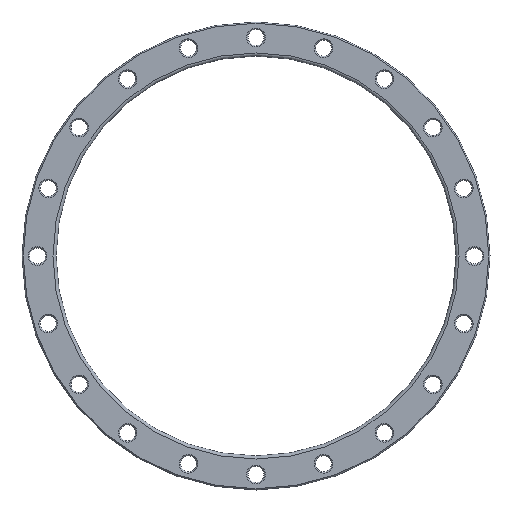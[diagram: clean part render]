
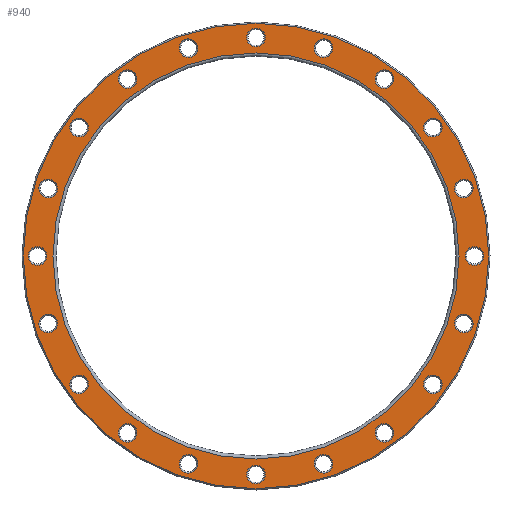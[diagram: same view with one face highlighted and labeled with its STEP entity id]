
A CAD part, front view. The second image highlights one B-rep face of the part: STEP entity #940.
In plain terms, the highlighted planar face has unit normal (0, -1, 0).
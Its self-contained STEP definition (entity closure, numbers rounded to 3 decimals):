
#23=PLANE('',#1104);
#206=ORIENTED_EDGE('',*,*,#325,.T.);
#207=ORIENTED_EDGE('',*,*,#326,.T.);
#208=ORIENTED_EDGE('',*,*,#244,.T.);
#209=ORIENTED_EDGE('',*,*,#248,.T.);
#210=ORIENTED_EDGE('',*,*,#252,.T.);
#211=ORIENTED_EDGE('',*,*,#256,.T.);
#212=ORIENTED_EDGE('',*,*,#260,.T.);
#213=ORIENTED_EDGE('',*,*,#264,.T.);
#214=ORIENTED_EDGE('',*,*,#268,.T.);
#215=ORIENTED_EDGE('',*,*,#272,.T.);
#216=ORIENTED_EDGE('',*,*,#276,.T.);
#217=ORIENTED_EDGE('',*,*,#280,.T.);
#218=ORIENTED_EDGE('',*,*,#284,.T.);
#219=ORIENTED_EDGE('',*,*,#288,.T.);
#220=ORIENTED_EDGE('',*,*,#292,.T.);
#221=ORIENTED_EDGE('',*,*,#296,.T.);
#222=ORIENTED_EDGE('',*,*,#300,.T.);
#223=ORIENTED_EDGE('',*,*,#304,.T.);
#224=ORIENTED_EDGE('',*,*,#308,.T.);
#225=ORIENTED_EDGE('',*,*,#312,.T.);
#226=ORIENTED_EDGE('',*,*,#316,.T.);
#227=ORIENTED_EDGE('',*,*,#327,.T.);
#244=EDGE_CURVE('',#332,#332,#420,.T.);
#248=EDGE_CURVE('',#336,#336,#424,.T.);
#252=EDGE_CURVE('',#340,#340,#428,.T.);
#256=EDGE_CURVE('',#344,#344,#432,.T.);
#260=EDGE_CURVE('',#348,#348,#436,.T.);
#264=EDGE_CURVE('',#352,#352,#440,.T.);
#268=EDGE_CURVE('',#356,#356,#444,.T.);
#272=EDGE_CURVE('',#360,#360,#448,.T.);
#276=EDGE_CURVE('',#364,#364,#452,.T.);
#280=EDGE_CURVE('',#368,#368,#456,.T.);
#284=EDGE_CURVE('',#372,#372,#460,.T.);
#288=EDGE_CURVE('',#376,#376,#464,.T.);
#292=EDGE_CURVE('',#380,#380,#468,.T.);
#296=EDGE_CURVE('',#384,#384,#472,.T.);
#300=EDGE_CURVE('',#388,#388,#476,.T.);
#304=EDGE_CURVE('',#392,#392,#480,.T.);
#308=EDGE_CURVE('',#396,#396,#484,.T.);
#312=EDGE_CURVE('',#400,#400,#488,.T.);
#316=EDGE_CURVE('',#404,#404,#492,.T.);
#325=EDGE_CURVE('',#413,#413,#501,.F.);
#326=EDGE_CURVE('',#414,#414,#502,.T.);
#327=EDGE_CURVE('',#415,#415,#503,.T.);
#332=VERTEX_POINT('',#1439);
#336=VERTEX_POINT('',#1450);
#340=VERTEX_POINT('',#1461);
#344=VERTEX_POINT('',#1472);
#348=VERTEX_POINT('',#1483);
#352=VERTEX_POINT('',#1494);
#356=VERTEX_POINT('',#1505);
#360=VERTEX_POINT('',#1516);
#364=VERTEX_POINT('',#1527);
#368=VERTEX_POINT('',#1538);
#372=VERTEX_POINT('',#1549);
#376=VERTEX_POINT('',#1560);
#380=VERTEX_POINT('',#1571);
#384=VERTEX_POINT('',#1582);
#388=VERTEX_POINT('',#1593);
#392=VERTEX_POINT('',#1604);
#396=VERTEX_POINT('',#1615);
#400=VERTEX_POINT('',#1626);
#404=VERTEX_POINT('',#1637);
#413=VERTEX_POINT('',#1660);
#414=VERTEX_POINT('',#1662);
#415=VERTEX_POINT('',#1664);
#420=CIRCLE('',#965,15.);
#424=CIRCLE('',#972,15.);
#428=CIRCLE('',#979,15.);
#432=CIRCLE('',#986,15.);
#436=CIRCLE('',#993,15.);
#440=CIRCLE('',#1000,15.);
#444=CIRCLE('',#1007,15.);
#448=CIRCLE('',#1014,15.);
#452=CIRCLE('',#1021,15.);
#456=CIRCLE('',#1028,15.);
#460=CIRCLE('',#1035,15.);
#464=CIRCLE('',#1042,15.);
#468=CIRCLE('',#1049,15.);
#472=CIRCLE('',#1056,15.);
#476=CIRCLE('',#1063,15.);
#480=CIRCLE('',#1070,15.);
#484=CIRCLE('',#1077,15.);
#488=CIRCLE('',#1084,15.);
#492=CIRCLE('',#1091,15.);
#501=CIRCLE('',#1105,375.5);
#502=CIRCLE('',#1106,327.5);
#503=CIRCLE('',#1107,15.);
#646=EDGE_LOOP('',(#206));
#647=EDGE_LOOP('',(#207));
#648=EDGE_LOOP('',(#208));
#649=EDGE_LOOP('',(#209));
#650=EDGE_LOOP('',(#210));
#651=EDGE_LOOP('',(#211));
#652=EDGE_LOOP('',(#212));
#653=EDGE_LOOP('',(#213));
#654=EDGE_LOOP('',(#214));
#655=EDGE_LOOP('',(#215));
#656=EDGE_LOOP('',(#216));
#657=EDGE_LOOP('',(#217));
#658=EDGE_LOOP('',(#218));
#659=EDGE_LOOP('',(#219));
#660=EDGE_LOOP('',(#220));
#661=EDGE_LOOP('',(#221));
#662=EDGE_LOOP('',(#222));
#663=EDGE_LOOP('',(#223));
#664=EDGE_LOOP('',(#224));
#665=EDGE_LOOP('',(#225));
#666=EDGE_LOOP('',(#226));
#667=EDGE_LOOP('',(#227));
#822=FACE_BOUND('',#646,.T.);
#823=FACE_BOUND('',#647,.T.);
#824=FACE_BOUND('',#648,.T.);
#825=FACE_BOUND('',#649,.T.);
#826=FACE_BOUND('',#650,.T.);
#827=FACE_BOUND('',#651,.T.);
#828=FACE_BOUND('',#652,.T.);
#829=FACE_BOUND('',#653,.T.);
#830=FACE_BOUND('',#654,.T.);
#831=FACE_BOUND('',#655,.T.);
#832=FACE_BOUND('',#656,.T.);
#833=FACE_BOUND('',#657,.T.);
#834=FACE_BOUND('',#658,.T.);
#835=FACE_BOUND('',#659,.T.);
#836=FACE_BOUND('',#660,.T.);
#837=FACE_BOUND('',#661,.T.);
#838=FACE_BOUND('',#662,.T.);
#839=FACE_BOUND('',#663,.T.);
#840=FACE_BOUND('',#664,.T.);
#841=FACE_BOUND('',#665,.T.);
#842=FACE_BOUND('',#666,.T.);
#843=FACE_BOUND('',#667,.T.);
#940=ADVANCED_FACE('',(#822,#823,#824,#825,#826,#827,#828,#829,#830,#831,
#832,#833,#834,#835,#836,#837,#838,#839,#840,#841,#842,#843),#23,.F.);
#965=AXIS2_PLACEMENT_3D('',#1438,#1127,#1128);
#972=AXIS2_PLACEMENT_3D('',#1449,#1141,#1142);
#979=AXIS2_PLACEMENT_3D('',#1460,#1155,#1156);
#986=AXIS2_PLACEMENT_3D('',#1471,#1169,#1170);
#993=AXIS2_PLACEMENT_3D('',#1482,#1183,#1184);
#1000=AXIS2_PLACEMENT_3D('',#1493,#1197,#1198);
#1007=AXIS2_PLACEMENT_3D('',#1504,#1211,#1212);
#1014=AXIS2_PLACEMENT_3D('',#1515,#1225,#1226);
#1021=AXIS2_PLACEMENT_3D('',#1526,#1239,#1240);
#1028=AXIS2_PLACEMENT_3D('',#1537,#1253,#1254);
#1035=AXIS2_PLACEMENT_3D('',#1548,#1267,#1268);
#1042=AXIS2_PLACEMENT_3D('',#1559,#1281,#1282);
#1049=AXIS2_PLACEMENT_3D('',#1570,#1295,#1296);
#1056=AXIS2_PLACEMENT_3D('',#1581,#1309,#1310);
#1063=AXIS2_PLACEMENT_3D('',#1592,#1323,#1324);
#1070=AXIS2_PLACEMENT_3D('',#1603,#1337,#1338);
#1077=AXIS2_PLACEMENT_3D('',#1614,#1351,#1352);
#1084=AXIS2_PLACEMENT_3D('',#1625,#1365,#1366);
#1091=AXIS2_PLACEMENT_3D('',#1636,#1379,#1380);
#1104=AXIS2_PLACEMENT_3D('',#1658,#1405,#1406);
#1105=AXIS2_PLACEMENT_3D('',#1659,#1407,#1408);
#1106=AXIS2_PLACEMENT_3D('',#1661,#1409,#1410);
#1107=AXIS2_PLACEMENT_3D('',#1663,#1411,#1412);
#1127=DIRECTION('',(0.,1.,0.));
#1128=DIRECTION('',(0.951,0.,0.309));
#1141=DIRECTION('',(0.,1.,0.));
#1142=DIRECTION('',(0.809,0.,0.588));
#1155=DIRECTION('',(0.,1.,0.));
#1156=DIRECTION('',(0.588,0.,0.809));
#1169=DIRECTION('',(0.,1.,0.));
#1170=DIRECTION('',(0.309,0.,0.951));
#1183=DIRECTION('',(0.,1.,0.));
#1184=DIRECTION('',(0.,0.,1.));
#1197=DIRECTION('',(0.,1.,0.));
#1198=DIRECTION('',(-0.309,0.,0.951));
#1211=DIRECTION('',(0.,1.,0.));
#1212=DIRECTION('',(-0.588,0.,0.809));
#1225=DIRECTION('',(0.,1.,0.));
#1226=DIRECTION('',(-0.809,0.,0.588));
#1239=DIRECTION('',(0.,1.,0.));
#1240=DIRECTION('',(-0.951,0.,0.309));
#1253=DIRECTION('',(0.,1.,0.));
#1254=DIRECTION('',(-1.,0.,0.));
#1267=DIRECTION('',(0.,1.,0.));
#1268=DIRECTION('',(-0.951,0.,-0.309));
#1281=DIRECTION('',(0.,1.,0.));
#1282=DIRECTION('',(-0.809,0.,-0.588));
#1295=DIRECTION('',(0.,1.,0.));
#1296=DIRECTION('',(-0.588,0.,-0.809));
#1309=DIRECTION('',(0.,1.,0.));
#1310=DIRECTION('',(-0.309,0.,-0.951));
#1323=DIRECTION('',(0.,1.,0.));
#1324=DIRECTION('',(0.,0.,-1.));
#1337=DIRECTION('',(0.,1.,0.));
#1338=DIRECTION('',(0.309,0.,-0.951));
#1351=DIRECTION('',(0.,1.,0.));
#1352=DIRECTION('',(0.588,0.,-0.809));
#1365=DIRECTION('',(0.,1.,0.));
#1366=DIRECTION('',(0.809,0.,-0.588));
#1379=DIRECTION('',(0.,1.,0.));
#1380=DIRECTION('',(0.951,0.,-0.309));
#1405=DIRECTION('',(0.,1.,0.));
#1406=DIRECTION('',(0.,0.,1.));
#1407=DIRECTION('',(0.,1.,0.));
#1408=DIRECTION('',(0.,0.,1.));
#1409=DIRECTION('',(0.,1.,0.));
#1410=DIRECTION('',(0.,0.,1.));
#1411=DIRECTION('',(0.,1.,0.));
#1412=DIRECTION('',(1.,0.,0.));
#1438=CARTESIAN_POINT('',(-108.928,0.,335.247));
#1439=CARTESIAN_POINT('',(-94.663,0.,339.883));
#1449=CARTESIAN_POINT('',(-207.194,0.,285.178));
#1450=CARTESIAN_POINT('',(-195.059,0.,293.995));
#1460=CARTESIAN_POINT('',(-285.178,0.,207.194));
#1461=CARTESIAN_POINT('',(-276.362,0.,219.33));
#1471=CARTESIAN_POINT('',(-335.247,0.,108.928));
#1472=CARTESIAN_POINT('',(-330.612,0.,123.194));
#1482=CARTESIAN_POINT('',(-352.5,0.,0.));
#1483=CARTESIAN_POINT('',(-352.5,0.,15.));
#1493=CARTESIAN_POINT('',(-335.247,0.,-108.928));
#1494=CARTESIAN_POINT('',(-339.883,0.,-94.663));
#1504=CARTESIAN_POINT('',(-285.178,0.,-207.194));
#1505=CARTESIAN_POINT('',(-293.995,0.,-195.059));
#1515=CARTESIAN_POINT('',(-207.194,0.,-285.178));
#1516=CARTESIAN_POINT('',(-219.33,0.,-276.362));
#1526=CARTESIAN_POINT('',(-108.928,0.,-335.247));
#1527=CARTESIAN_POINT('',(-123.194,0.,-330.612));
#1537=CARTESIAN_POINT('',(0.,0.,-352.5));
#1538=CARTESIAN_POINT('',(-15.,0.,-352.5));
#1548=CARTESIAN_POINT('',(108.928,0.,-335.247));
#1549=CARTESIAN_POINT('',(94.663,0.,-339.883));
#1559=CARTESIAN_POINT('',(207.194,0.,-285.178));
#1560=CARTESIAN_POINT('',(195.059,0.,-293.995));
#1570=CARTESIAN_POINT('',(285.178,0.,-207.194));
#1571=CARTESIAN_POINT('',(276.362,0.,-219.33));
#1581=CARTESIAN_POINT('',(335.247,0.,-108.928));
#1582=CARTESIAN_POINT('',(330.612,0.,-123.194));
#1592=CARTESIAN_POINT('',(352.5,0.,0.));
#1593=CARTESIAN_POINT('',(352.5,0.,-15.));
#1603=CARTESIAN_POINT('',(335.247,0.,108.928));
#1604=CARTESIAN_POINT('',(339.883,0.,94.663));
#1614=CARTESIAN_POINT('',(285.178,0.,207.194));
#1615=CARTESIAN_POINT('',(293.995,0.,195.059));
#1625=CARTESIAN_POINT('',(207.194,0.,285.178));
#1626=CARTESIAN_POINT('',(219.33,0.,276.362));
#1636=CARTESIAN_POINT('',(108.928,0.,335.247));
#1637=CARTESIAN_POINT('',(123.194,0.,330.612));
#1658=CARTESIAN_POINT('',(0.,0.,0.));
#1659=CARTESIAN_POINT('',(0.,0.,0.));
#1660=CARTESIAN_POINT('',(0.,0.,375.5));
#1661=CARTESIAN_POINT('',(0.,0.,0.));
#1662=CARTESIAN_POINT('',(0.,0.,327.5));
#1663=CARTESIAN_POINT('',(0.,0.,352.5));
#1664=CARTESIAN_POINT('',(15.,0.,352.5));
